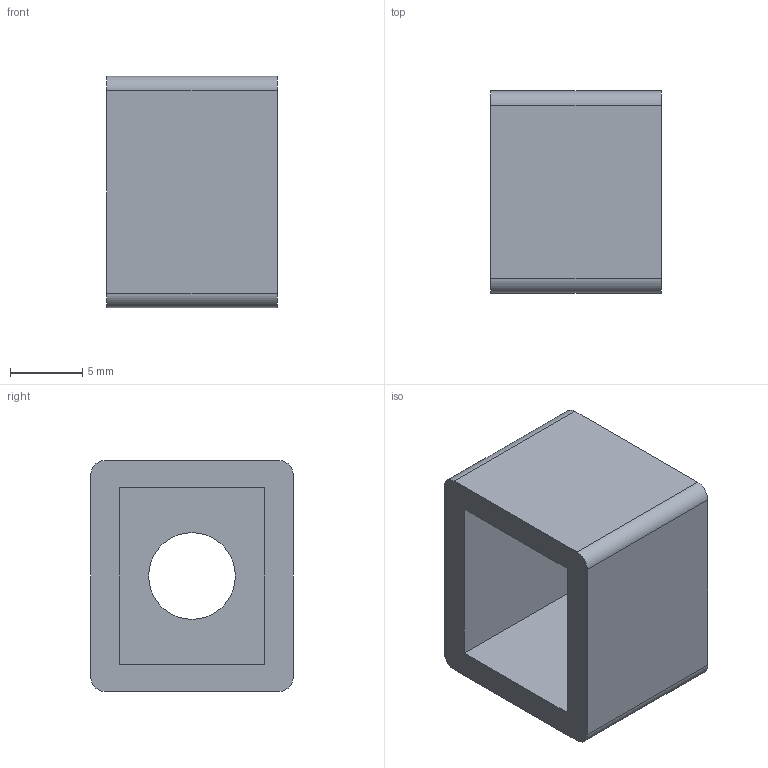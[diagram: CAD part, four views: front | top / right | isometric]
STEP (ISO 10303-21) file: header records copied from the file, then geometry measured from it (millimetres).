
FILE_DESCRIPTION(/* description */ ('Unknown'),/* implementation_level */ '2;1');
FILE_NAME(/* name */ 'gear-cover',/* time_stamp */ '2024-05-08T11:09:32-05:00',/* author */ ('Unknown'),/* organization */ ('Unknown'),/* preprocessor_version */ 'ST-DEVELOPER v18.102',/* originating_system */ 'Solid Edge',/* authorisation */ 'Unknown');
FILE_SCHEMA (('AUTOMOTIVE_DESIGN {1 0 10303 214 3 1 1}'));
Length unit declared in the file: millimetre
Products named in the file (1): gear-cover
Bounding box: 11.8 x 14 x 16 mm (x, y, z)
Volume: 1327.8 mm3; surface area: 1564.1 mm2
Topology: 1 solids, 1 shells, 16 faces, 40 edges, 27 vertices
Faces by surface type: plane 11, cylinder 5
Full cylindrical faces by diameter (mm): 6 x1
Entity records: 502 total; most frequent: DIRECTION 82, CARTESIAN_POINT 81, ORIENTED_EDGE 76, EDGE_CURVE 38, LINE 28, VECTOR 28, AXIS2_PLACEMENT_3D 27, VERTEX_POINT 26
